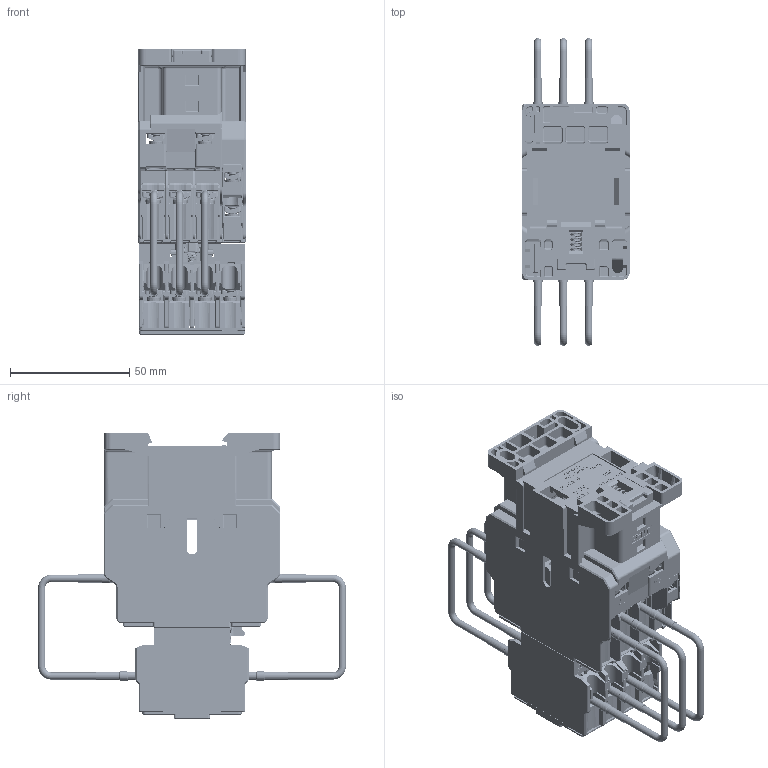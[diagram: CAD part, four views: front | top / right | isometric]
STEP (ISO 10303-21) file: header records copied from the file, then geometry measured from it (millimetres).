
FILE_DESCRIPTION((''),'2;1');
FILE_NAME('2401C1617_ASM','2025-03-04T10:57:56',('zyongj'),(''),'CREO PARAMETRIC BY PTC INC, 2020044','CREO PARAMETRIC BY PTC INC, 2020044','');
FILE_SCHEMA(('CONFIG_CONTROL_DESIGN','SHAPE_APPEARANCE_LAYERS_GROUPS'));
Products named in the file (107): 8ZTD-022-608; 8ZTD-261-102; 8ZTD-282-1136_AF1; 5ZTD-022-401_AF0_ASM; 8ZTD-732-445; 8ZTD-516-247; 8ZTD-516-248; 5732C1612_ASM; 5ZTD-732-051_ASM; QBX_AF1; 8ZTJ-907-002; 8ZTJ-950-003_AF10; 5ZTJ-850-001_AF9_ASM; 8ZTJ-950-003_AF11; 5ZTJ-850-001_AF11_ASM; 8ZTJ-950-003_AF9; 5ZTJ-850-001_AF8_ASM; 8ZTJ-950-003_AF12; 5ZTJ-850-001_AF10_ASM; 5ZTD-520-777_AF0_ASM; 5ZTD-022-407_AF0_ASM; 8ZTD-024-820; 8ZTD-557-691; 8ZTD-550-677_T_AF1; 8ZTD-550-677_Y; 8ZTD-550-677_AF0_ASM; 5ZTD-550-594-1_2_ASM; 8ZTJ-557-042_AF0; 8ZTJ-550-087-ZP1_AF2; 8ZTJ-550-087-ZP2_AF2; 8ZTJ-550-087-1_4_AF0_ASM; 5ZTJ-550-051-1_3_ASM; 8ZTD-557-574; 8ZTJ-550-087-ZP1_AF3; 8ZTJ-550-087-ZP2_AF3; 8ZTJ-550-087-1_4_AF1_ASM; 5ZTD-550-509_ASM; 8ZTJ-907-003; 8ZTJ-950-004_AF0; 5ZTJ-850-002_ASM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
Assembly tree (152 placements, depth 7):
  2401C1617_ASM
    2ZTD-400-174_AF0_ASM
      5ZTD-022-407_AF0_ASM
        5ZTD-022-401_AF0_ASM
          8ZTD-022-608
          8ZTD-261-102
          8ZTD-282-1136_AF1
        5ZTD-520-777_AF0_ASM
          5ZTD-732-051_ASM
            5732C1612_ASM
              8ZTD-732-445
              8ZTD-516-247
              8ZTD-516-248
          QBX_AF1
          5ZTJ-850-001_AF9_ASM
            8ZTJ-907-002
            8ZTJ-950-003_AF10
          5ZTJ-850-001_AF11_ASM
            8ZTJ-907-002
            8ZTJ-950-003_AF11
          5ZTJ-850-001_AF8_ASM
            8ZTJ-907-002
            8ZTJ-950-003_AF9
          5ZTJ-850-001_AF10_ASM
            8ZTJ-907-002
            8ZTJ-950-003_AF12
      5ZTD-024-684_ASM
        8ZTD-024-820
        5ZTD-550-594-1_2_ASM  x6
          8ZTD-557-691
          8ZTD-550-677_AF0_ASM
            8ZTD-550-677_T_AF1
            8ZTD-550-677_Y
        5ZTJ-550-051-1_3_ASM  x2
          8ZTJ-557-042_AF0
          8ZTJ-550-087-1_4_AF0_ASM
            8ZTJ-550-087-ZP1_AF2
            8ZTJ-550-087-ZP2_AF2
        5ZTD-550-509_ASM  x2
          8ZTD-557-574
          8ZTJ-550-087-1_4_AF1_ASM
            8ZTJ-550-087-ZP1_AF3
            8ZTJ-550-087-ZP2_AF3
        5ZTJ-850-002_ASM  x6
          8ZTJ-907-003
          8ZTJ-950-004_AF0
        5ZTJ-850-001_ASM  x4
          8ZTJ-907-002
          8ZTJ-950-003_AF0
      8ZTD-315-1158
      8ZTD-315-1159
      8ZTD-906-047  x2
    6249FC1606001_004_ASM
      5024FC1610_ASM
        8024FC1602
        8ZTJ-885-001
        8ZTJ-282-140_AF0
      5104FC1616001_002_AF0_ASM
        5104FC1614_AF0_ASM
          8104FC1602
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Bounding box: 45 x 129.2 x 120 mm (x, y, z)
Volume: 122667 mm3; surface area: 180147.1 mm2
Topology: 157 solids, 197 shells, 17692 faces, 47093 edges, 29962 vertices
Faces by surface type: plane 11324, cylinder 4198, cone 639, sphere 531, torus 435, bspline 295, extrusion 270
Entity records: 589517 total; most frequent: CARTESIAN_POINT 126192, ORIENTED_EDGE 69626, DIRECTION 63310, PRESENTATION_STYLE_ASSIGNMENT 38008, STYLED_ITEM 36801, EDGE_CURVE 34832, CURVE_STYLE 33482, VECTOR 27170
